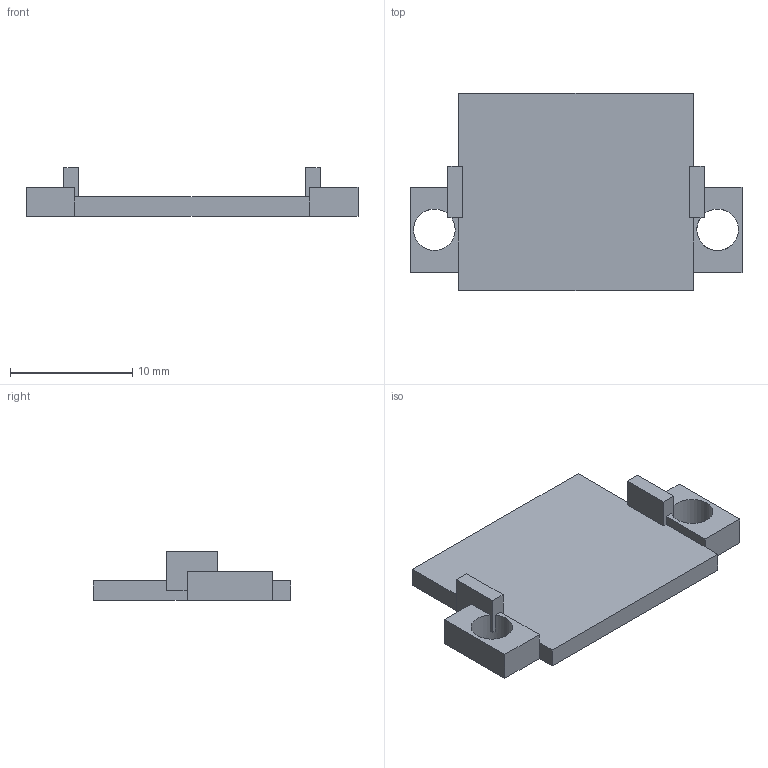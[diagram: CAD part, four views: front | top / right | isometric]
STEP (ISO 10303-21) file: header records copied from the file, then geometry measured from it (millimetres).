
FILE_DESCRIPTION(('FreeCAD Model'),'2;1');
FILE_NAME('Open CASCADE Shape Model','2026-11-20T08:25:38',('FreeCAD'),( 'FreeCAD'),'Open CASCADE STEP processor 7.8','FreeCAD','Unknown');
FILE_SCHEMA(('AUTOMOTIVE_DESIGN { 1 0 10303 214 1 1 1 1 }'));
Length unit declared in the file: millimetre
Products named in the file (1): Open CASCADE STEP translator 7.8 60
Bounding box: 27.2 x 16.2 x 4 mm (x, y, z)
Volume: 611.7 mm3; surface area: 970.9 mm2
Topology: 1 solids, 1 shells, 34 faces, 100 edges, 66 vertices
Faces by surface type: plane 32, cylinder 2
Full cylindrical faces by diameter (mm): 3.4 x2
Entity records: 1134 total; most frequent: CARTESIAN_POINT 201, ORIENTED_EDGE 200, DIRECTION 178, EDGE_CURVE 100, LINE 92, VECTOR 92, VERTEX_POINT 66, AXIS2_PLACEMENT_3D 43
